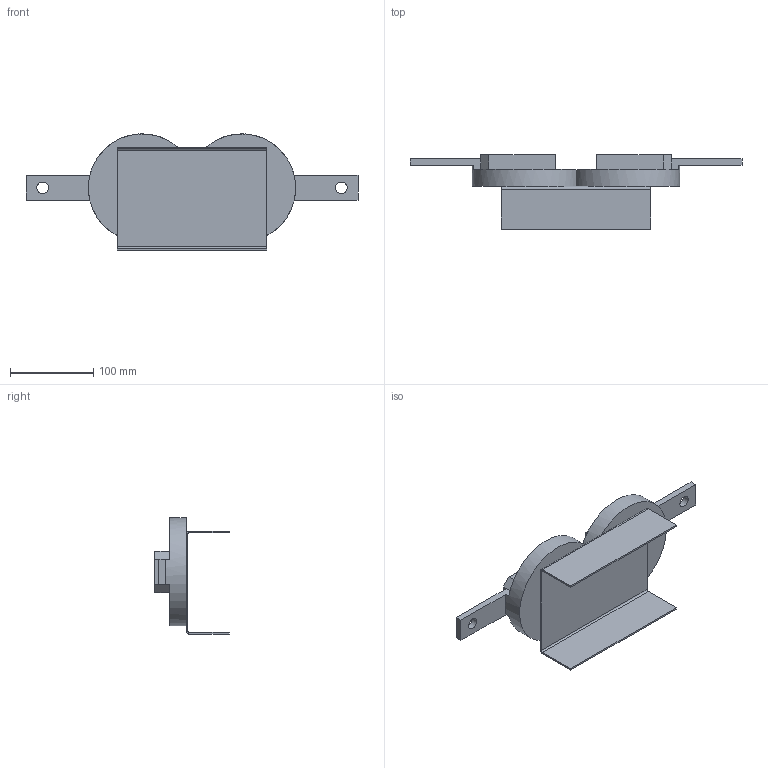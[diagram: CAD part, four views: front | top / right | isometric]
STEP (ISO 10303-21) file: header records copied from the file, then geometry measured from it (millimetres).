
FILE_DESCRIPTION (( 'STEP AP214' ), '1' );
FILE_NAME ('Ïðèâîä ÏÐÍÇ-10-ÓÕË1-ÊÝÀÇ.STEP', '2023-02-01T12:13:09', ( '' ), ( '' ), 'SwSTEP 2.0', 'SolidWorks 2018', '' );
FILE_SCHEMA (( 'AUTOMOTIVE_DESIGN' ));
Length unit declared in the file: millimetre
Products named in the file (1): Ïðèâîä ÏÐÍÇ-10-ÓÕË1-ÊÝÀÇ
Bounding box: 400 x 90 x 140 mm (x, y, z)
Volume: 803484.9 mm3; surface area: 133528.9 mm2
Topology: 1 solids, 1 shells, 46 faces, 125 edges, 81 vertices
Faces by surface type: plane 38, cylinder 8
Full cylindrical faces by diameter (mm): 14 x2
Entity records: 1460 total; most frequent: CARTESIAN_POINT 249, ORIENTED_EDGE 244, DIRECTION 240, EDGE_CURVE 122, VECTOR 98, LINE 98, VERTEX_POINT 80, AXIS2_PLACEMENT_3D 71
